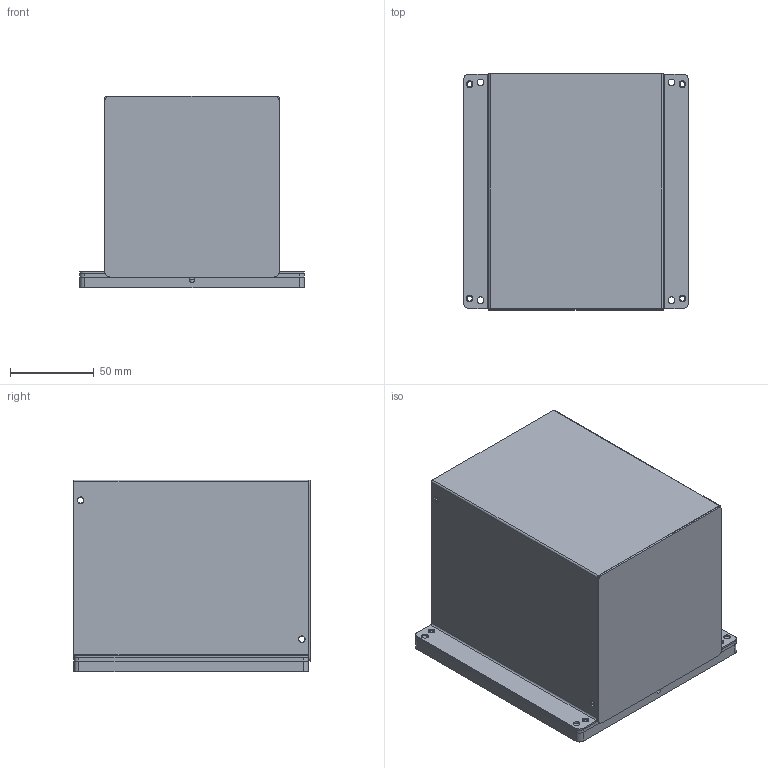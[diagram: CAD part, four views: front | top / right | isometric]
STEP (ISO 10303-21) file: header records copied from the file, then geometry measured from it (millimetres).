
FILE_DESCRIPTION (( 'STEP AP214' ), '1' );
FILE_NAME ('3DEE_STD_OA100X100_IND_A.STEP', '2019-11-08T10:10:52', ( '' ), ( '' ), 'SwSTEP 2.0', 'SolidWorks 2012', '' );
FILE_SCHEMA (( 'AUTOMOTIVE_DESIGN' ));
Length unit declared in the file: millimetre
Products named in the file (1): 3DEE_STD_OA100X100_IND_A
Bounding box: 134 x 141 x 114.5 mm (x, y, z)
Surface area: 172795.1 mm2 (no closed solid volume)
Topology: 0 solids, 12 shells, 158 faces, 553 edges, 400 vertices
Faces by surface type: cylinder 95, plane 53, cone 10
Entity records: 7895 total; most frequent: CARTESIAN_POINT 1178, DIRECTION 1105, ORIENTED_EDGE 878, EDGE_CURVE 553, AXIS2_PLACEMENT_3D 407, VERTEX_POINT 400, VECTOR 291, LINE 291
